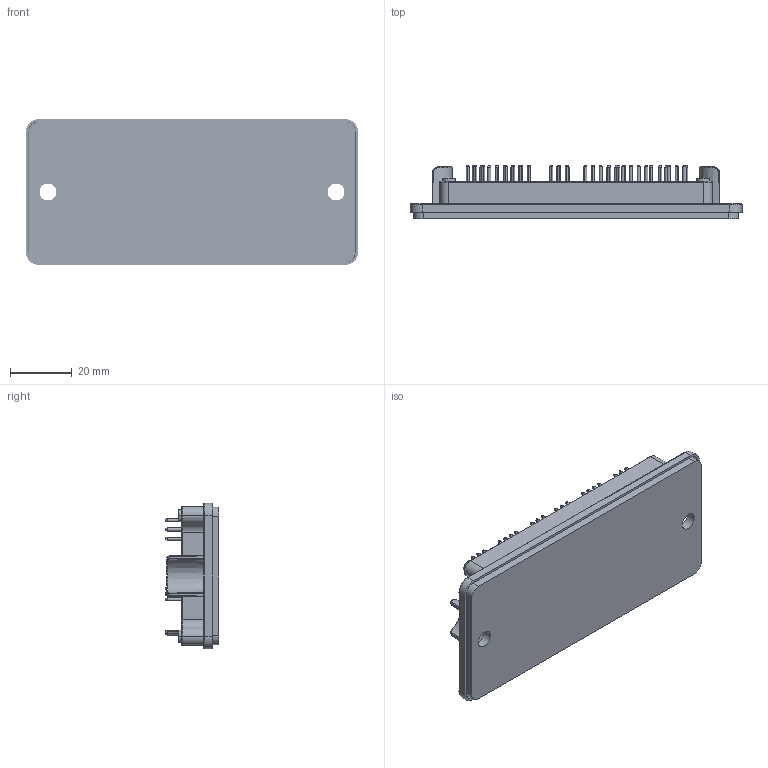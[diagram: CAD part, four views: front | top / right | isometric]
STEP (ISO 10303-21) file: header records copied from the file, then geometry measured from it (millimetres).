
FILE_DESCRIPTION((''),'2;1');
FILE_NAME('AMG300L65F2S5RA-V1-R1_ASM','2024-06-05T08:47:08',('yanbing.guo'),(''),'CREO PARAMETRIC BY PTC INC, 2022073','CREO PARAMETRIC BY PTC INC, 2022073','');
FILE_SCHEMA(('CONFIG_CONTROL_DESIGN','SHAPE_APPEARANCE_LAYERS_GROUPS'));
Length unit declared in the file: millimetre
Products named in the file (112): _ACF-200; HOUSING-R1_ASM; S00; S00_ASM; COPPER-BASE; DBC200UM00_1_1; DBC200UM00_1_2; SN-DBC_ASM; _1_11_-93700001_1; _1_14_-99940001_1; _1_15_-102020001_1; _1_16_-103960001_1; _1_8_-196770001_1; _1_10_-226990001_1; _1_1_-234920001_1; _1_2_-237070001_1; _1_3_-239090001_1; _1_4_-241110001_1; _1_5_-325710001_1; _1_6_-327820001_1; _1_7_-329900001_1; _1_9_-359960001_1; _1_12_-365420001_1; _1_13_-367490001_1; COPPER-TOP_ASM; NONE-19342_1; NONE-22764_1; NONE-32644_1; NONE-36280_1; 0002_ASM_1_ASM; DBC-PLATE_ASM; 100UM0001_2_1; 100UM0001_2_2; 100UM0001_2_3; 100UM0001_2_4; 100UM0001_2_5; 100UM0001_2_6; 100UM0001_2_7; 100UM0001_2_8; 100UM0001_2_9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
Assembly tree (164 placements, depth 6):
  AMG300L65F2S5RA-V1-R1_ASM
    HOUSING-R1_ASM
      _ACF-200
      _ACF-200
      _ACF-200
    LAYOUT-V1_ASM
      S00_ASM
        S00  x54
      AMG300L65F2S5RA-V1_1_ASM
        COPPER-BASE
        SN-DBC_ASM
          DBC200UM00_1_1
          DBC200UM00_1_2
        DBC-PLATE_ASM
          COPPER-TOP_ASM
            _1_11_-93700001_1
            _1_14_-99940001_1
            _1_15_-102020001_1
            _1_16_-103960001_1
            _1_8_-196770001_1
            _1_10_-226990001_1
            _1_1_-234920001_1
            _1_2_-237070001_1
            _1_3_-239090001_1
            _1_4_-241110001_1
            _1_5_-325710001_1
            _1_6_-327820001_1
            _1_7_-329900001_1
            _1_9_-359960001_1
            _1_12_-365420001_1
            _1_13_-367490001_1
          0002_ASM_1_ASM
            NONE-19342_1
            NONE-22764_1
            NONE-32644_1
            NONE-36280_1
        SN-CHIP_ASM
          100UM0001_2_1
          100UM0001_2_2
          100UM0001_2_3
          100UM0001_2_4
          100UM0001_2_5
          100UM0001_2_6
          100UM0001_2_7
          100UM0001_2_8
          100UM0001_2_9
          100UM0001_2_10
          100UM0001_2_11
          100UM0001_2_12
          100UM0001_2_13
          100UM0001_2_14
          100UM0001_2_15
          100UM0001_2_16
          100UM0001_2_17
          100UM0001_2_18
          100UM0001_2_19
          100UM0001_2_20
          100UM0001_2_21
          100UM0001_2_22
          100UM0001_2_23
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Bounding box: 107.2 x 17.23 x 47 mm (x, y, z)
Volume: 42717.9 mm3; surface area: 66061.6 mm2
Topology: 155 solids, 155 shells, 4265 faces, 11296 edges, 6972 vertices
Faces by surface type: plane 2079, cylinder 1357, bspline 440, cone 241, torus 148
Entity records: 63799 total; most frequent: CARTESIAN_POINT 12023, DIRECTION 11208, ORIENTED_EDGE 9856, EDGE_CURVE 4928, AXIS2_PLACEMENT_3D 4074, VERTEX_POINT 3262, VECTOR 3060, LINE 3060
